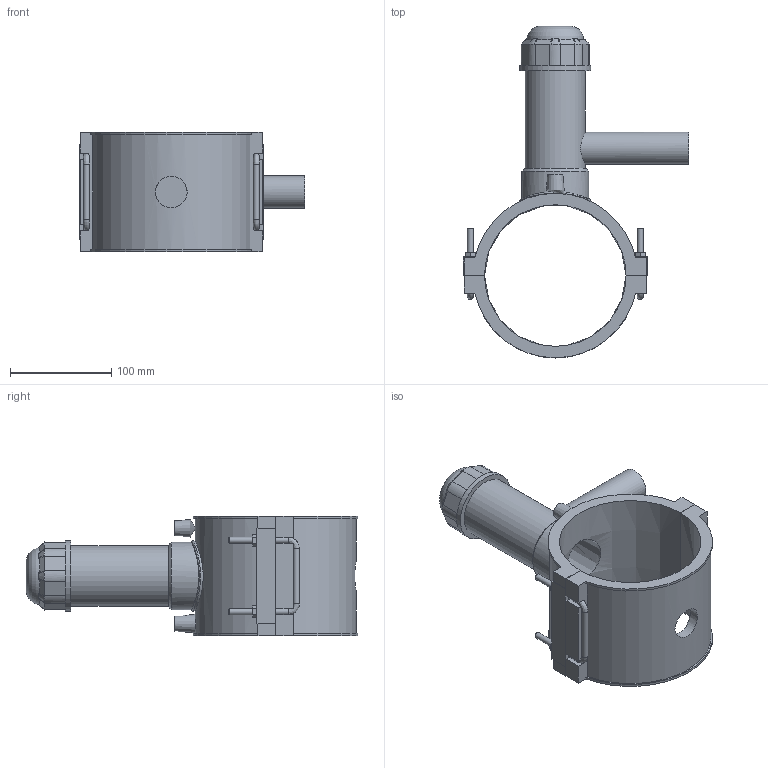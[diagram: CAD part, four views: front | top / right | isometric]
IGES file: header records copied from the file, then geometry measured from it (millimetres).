
Global section: file name: 496304140032.ipt; native system: Autodesk Inventor 2015; preprocessor: unknown; author: KIM; date: 20190124.130943; units: millimetre
Bounding box: 223 x 328.4 x 118 mm (x, y, z)
Volume: 921397.6 mm3; surface area: 221622.9 mm2
Topology: 2 solids, 2 shells, 207 faces, 522 edges, 335 vertices
Faces by surface type: plane 118, cylinder 33, bspline 21, revolution 20, cone 15
Full cylindrical faces by diameter (mm): 4 x2, 6 x10, 32 x1, 59.5 x1, 66.5 x1, 70 x2
